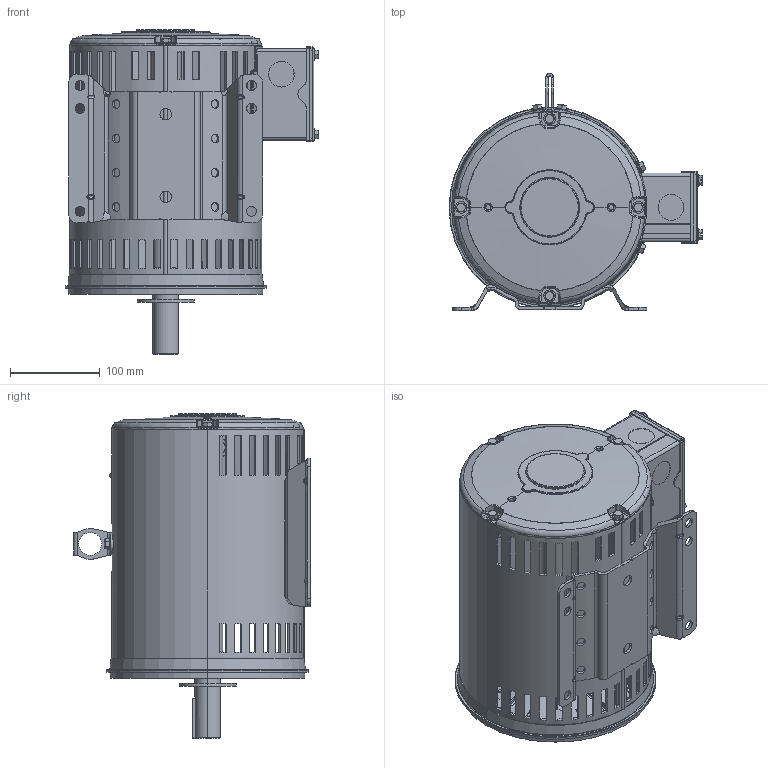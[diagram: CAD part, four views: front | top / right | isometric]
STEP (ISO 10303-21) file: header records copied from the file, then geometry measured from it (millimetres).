
FILE_DESCRIPTION (( 'STEP AP203' ), '1' );
FILE_NAME ('035592-1000_Rev01.STEP', '2017-08-30T07:11:08', ( '' ), ( '' ), 'SwSTEP 2.0', 'SolidWorks 2015', '' );
FILE_SCHEMA (( 'CONFIG_CONTROL_DESIGN' ));
Length unit declared in the file: inch
Products named in the file (1): 035592-1000_Rev01
Bounding box: 282.21 x 263.25 x 360.43 mm (x, y, z)
Volume: 1429373.7 mm3; surface area: 842581.6 mm2
Topology: 29 solids, 33 shells, 3811 faces, 9391 edges, 5542 vertices
Faces by surface type: bspline 1249, plane 913, cylinder 809, cone 312, torus 311, sphere 217
Entity records: 159974 total; most frequent: CARTESIAN_POINT 80457, ORIENTED_EDGE 18328, DIRECTION 14301, EDGE_CURVE 9164, AXIS2_PLACEMENT_3D 5897, VERTEX_POINT 5502, EDGE_LOOP 4090, ADVANCED_FACE 3811
